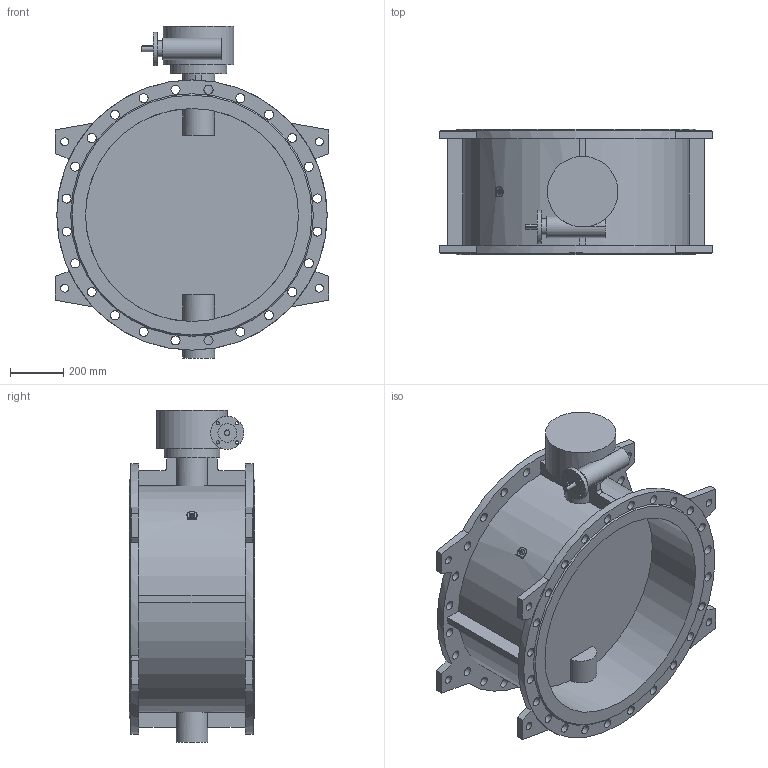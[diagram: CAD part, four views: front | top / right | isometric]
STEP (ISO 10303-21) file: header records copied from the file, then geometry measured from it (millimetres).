
FILE_DESCRIPTION(('STEP AP203'), '1');
FILE_NAME('Çàòâîð 023F.Z DN800 PN10_ð-ð_ôë', '', ('UNSPECIFIED'), ('UNSPECIFIED'), 'ASCON STEP Converter 1.6', 'ASCON Math Kernel', '');
FILE_SCHEMA(('CONFIG_CONTROL_DESIGN'));
Length unit declared in the file: millimetre
Bounding box: 1026 x 470 x 1247 mm (x, y, z)
Volume: 94885725.8 mm3; surface area: 5204082.6 mm2
Topology: 1 solids, 1 shells, 195 faces, 508 edges, 338 vertices
Faces by surface type: cylinder 98, plane 95, cone 2
Full cylindrical faces by diameter (mm): 12 x4, 18.5 x4, 20 x1, 23 x4, 30 x8, 34 x48, 60 x1, 70 x1, 80 x1, 120 x1, 125 x1, 210 x1, 265 x1, 800 x2, 1015 x2
Entity records: 8485 total; most frequent: CARTESIAN_POINT 2038, DIRECTION 1005, ORIENTED_EDGE 844, EDGE_CURVE 422, EDGE_LOOP 421, AXIS2_PLACEMENT_3D 407, VERTEX_POINT 337, FACE_BOUND 262
